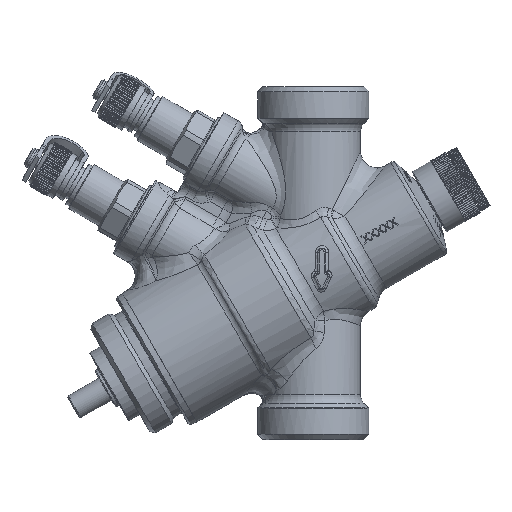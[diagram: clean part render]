
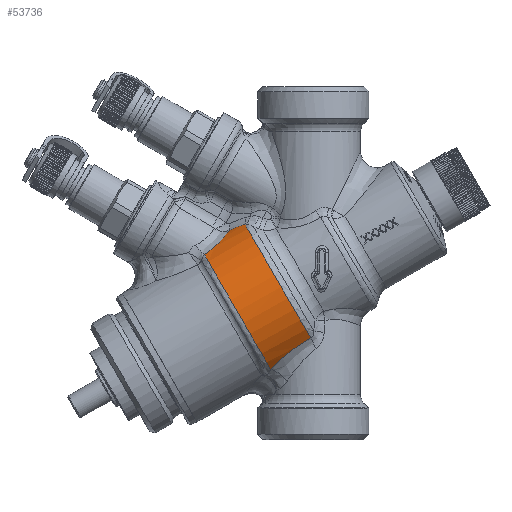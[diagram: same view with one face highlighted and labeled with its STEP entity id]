
A CAD part, left-side view. The second image highlights one B-rep face of the part: STEP entity #53736.
In plain terms, the highlighted cylindrical face has radius 18.65 mm (diameter 37.3 mm), a partial arc.
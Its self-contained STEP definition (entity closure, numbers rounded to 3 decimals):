
#586=ELLIPSE('',#57690,74.686,18.65);
#1870=CIRCLE('',#57725,18.65);
#1871=CIRCLE('',#57726,18.65);
#6139=FACE_OUTER_BOUND('',#9242,.T.);
#9242=EDGE_LOOP('',(#37356,#37357,#37358,#37359,#37360));
#12546=B_SPLINE_CURVE_WITH_KNOTS('',3,(#90203,#90204,#90205,#90206,#90207,
#90208,#90209,#90210,#90211,#90212,#90213,#90214,#90215,#90216,#90217,#90218,
#90219,#90220,#90221,#90222,#90223,#90224,#90225,#90226,#90227,#90228,#90229,
#90230,#90231,#90232,#90233,#90234,#90235,#90236,#90237,#90238,#90239,#90240,
#90241,#90242,#90243,#90244,#90245,#90246,#90247,#90248,#90249,#90250,#90251,
#90252,#90253,#90254,#90255,#90256,#90257),.UNSPECIFIED.,.F.,.F.,(4,3,3,
3,3,3,3,3,3,3,3,3,3,3,3,3,3,3,4),(0.001,0.002,
0.003,0.003,0.004,0.004,
0.004,0.005,0.006,0.006,
0.007,0.007,0.007,0.008,
0.008,0.009,0.01,0.011,
0.011),.UNSPECIFIED.);
#12548=B_SPLINE_CURVE_WITH_KNOTS('',3,(#90279,#90280,#90281,#90282,#90283,
#90284,#90285,#90286,#90287,#90288),.UNSPECIFIED.,.F.,.F.,(4,2,2,2,4),(0.,
0.003,0.006,0.009,0.012),
 .UNSPECIFIED.);
#22142=VERTEX_POINT('',#89167);
#22144=VERTEX_POINT('',#89253);
#22185=VERTEX_POINT('',#90202);
#22187=VERTEX_POINT('',#90275);
#22188=VERTEX_POINT('',#90277);
#28007=EDGE_CURVE('',#22144,#22142,#586,.T.);
#28065=EDGE_CURVE('',#22142,#22185,#12546,.T.);
#28068=EDGE_CURVE('',#22187,#22144,#1870,.T.);
#28069=EDGE_CURVE('',#22188,#22185,#1871,.T.);
#28070=EDGE_CURVE('',#22188,#22187,#12548,.T.);
#37356=ORIENTED_EDGE('',*,*,#28068,.T.);
#37357=ORIENTED_EDGE('',*,*,#28007,.T.);
#37358=ORIENTED_EDGE('',*,*,#28065,.T.);
#37359=ORIENTED_EDGE('',*,*,#28069,.F.);
#37360=ORIENTED_EDGE('',*,*,#28070,.T.);
#51690=CYLINDRICAL_SURFACE('',#57724,18.65);
#53736=ADVANCED_FACE('',(#6139),#51690,.T.);
#57690=AXIS2_PLACEMENT_3D('',#89257,#63009,#63010);
#57724=AXIS2_PLACEMENT_3D('',#90274,#63083,#63084);
#57725=AXIS2_PLACEMENT_3D('',#90276,#63085,#63086);
#57726=AXIS2_PLACEMENT_3D('',#90278,#63087,#63088);
#63009=DIRECTION('center_axis',(-0.828,0.467,0.31));
#63010=DIRECTION('ref_axis',(0.214,0.774,-0.596));
#63083=DIRECTION('center_axis',(0.,0.866,
-0.5));
#63084=DIRECTION('ref_axis',(0.,0.5,0.866));
#63085=DIRECTION('center_axis',(0.,0.866,
-0.5));
#63086=DIRECTION('ref_axis',(0.,0.5,0.866));
#63087=DIRECTION('center_axis',(0.,0.866,
-0.5));
#63088=DIRECTION('ref_axis',(0.,0.5,0.866));
#89167=CARTESIAN_POINT('',(-5.369,19.971,9.094));
#89253=CARTESIAN_POINT('',(-6.906,16.221,10.639));
#89257=CARTESIAN_POINT('Origin',(0.,57.557,-33.23));
#90202=CARTESIAN_POINT('',(-9.913,25.795,3.348));
#90203=CARTESIAN_POINT('Ctrl Pts',(-5.369,19.971,9.094));
#90204=CARTESIAN_POINT('Ctrl Pts',(-5.574,20.059,8.971));
#90205=CARTESIAN_POINT('Ctrl Pts',(-5.772,20.153,8.844));
#90206=CARTESIAN_POINT('Ctrl Pts',(-5.964,20.252,8.712));
#90207=CARTESIAN_POINT('Ctrl Pts',(-6.163,20.355,8.575));
#90208=CARTESIAN_POINT('Ctrl Pts',(-6.354,20.463,8.434));
#90209=CARTESIAN_POINT('Ctrl Pts',(-6.54,20.578,8.287));
#90210=CARTESIAN_POINT('Ctrl Pts',(-6.633,20.636,8.214));
#90211=CARTESIAN_POINT('Ctrl Pts',(-6.724,20.695,8.139));
#90212=CARTESIAN_POINT('Ctrl Pts',(-6.814,20.756,8.063));
#90213=CARTESIAN_POINT('Ctrl Pts',(-6.919,20.827,7.975));
#90214=CARTESIAN_POINT('Ctrl Pts',(-7.022,20.9,7.884));
#90215=CARTESIAN_POINT('Ctrl Pts',(-7.122,20.976,7.793));
#90216=CARTESIAN_POINT('Ctrl Pts',(-7.232,21.059,7.692));
#90217=CARTESIAN_POINT('Ctrl Pts',(-7.34,21.145,7.59));
#90218=CARTESIAN_POINT('Ctrl Pts',(-7.444,21.233,7.487));
#90219=CARTESIAN_POINT('Ctrl Pts',(-7.494,21.276,7.437));
#90220=CARTESIAN_POINT('Ctrl Pts',(-7.544,21.319,7.386));
#90221=CARTESIAN_POINT('Ctrl Pts',(-7.593,21.362,7.336));
#90222=CARTESIAN_POINT('Ctrl Pts',(-7.733,21.488,7.191));
#90223=CARTESIAN_POINT('Ctrl Pts',(-7.867,21.618,7.045));
#90224=CARTESIAN_POINT('Ctrl Pts',(-7.995,21.753,6.897));
#90225=CARTESIAN_POINT('Ctrl Pts',(-8.09,21.853,6.787));
#90226=CARTESIAN_POINT('Ctrl Pts',(-8.182,21.956,6.676));
#90227=CARTESIAN_POINT('Ctrl Pts',(-8.271,22.062,6.564));
#90228=CARTESIAN_POINT('Ctrl Pts',(-8.338,22.142,6.479));
#90229=CARTESIAN_POINT('Ctrl Pts',(-8.404,22.224,6.394));
#90230=CARTESIAN_POINT('Ctrl Pts',(-8.467,22.308,6.309));
#90231=CARTESIAN_POINT('Ctrl Pts',(-8.56,22.43,6.183));
#90232=CARTESIAN_POINT('Ctrl Pts',(-8.649,22.555,6.058));
#90233=CARTESIAN_POINT('Ctrl Pts',(-8.734,22.683,5.932));
#90234=CARTESIAN_POINT('Ctrl Pts',(-8.773,22.742,5.874));
#90235=CARTESIAN_POINT('Ctrl Pts',(-8.811,22.801,5.816));
#90236=CARTESIAN_POINT('Ctrl Pts',(-8.848,22.862,5.758));
#90237=CARTESIAN_POINT('Ctrl Pts',(-8.894,22.936,5.687));
#90238=CARTESIAN_POINT('Ctrl Pts',(-8.938,23.012,5.615));
#90239=CARTESIAN_POINT('Ctrl Pts',(-8.982,23.088,5.543));
#90240=CARTESIAN_POINT('Ctrl Pts',(-9.043,23.197,5.441));
#90241=CARTESIAN_POINT('Ctrl Pts',(-9.102,23.308,5.34));
#90242=CARTESIAN_POINT('Ctrl Pts',(-9.158,23.42,5.239));
#90243=CARTESIAN_POINT('Ctrl Pts',(-9.214,23.532,5.138));
#90244=CARTESIAN_POINT('Ctrl Pts',(-9.267,23.645,5.037));
#90245=CARTESIAN_POINT('Ctrl Pts',(-9.317,23.76,4.938));
#90246=CARTESIAN_POINT('Ctrl Pts',(-9.342,23.818,4.887));
#90247=CARTESIAN_POINT('Ctrl Pts',(-9.367,23.877,4.837));
#90248=CARTESIAN_POINT('Ctrl Pts',(-9.391,23.936,4.787));
#90249=CARTESIAN_POINT('Ctrl Pts',(-9.49,24.178,4.58));
#90250=CARTESIAN_POINT('Ctrl Pts',(-9.577,24.427,4.377));
#90251=CARTESIAN_POINT('Ctrl Pts',(-9.653,24.681,4.176));
#90252=CARTESIAN_POINT('Ctrl Pts',(-9.731,24.941,3.972));
#90253=CARTESIAN_POINT('Ctrl Pts',(-9.797,25.207,3.771));
#90254=CARTESIAN_POINT('Ctrl Pts',(-9.853,25.479,3.574));
#90255=CARTESIAN_POINT('Ctrl Pts',(-9.875,25.583,3.498));
#90256=CARTESIAN_POINT('Ctrl Pts',(-9.895,25.689,3.423));
#90257=CARTESIAN_POINT('Ctrl Pts',(-9.913,25.795,3.348));
#90274=CARTESIAN_POINT('Origin',(0.,-1.386,
0.8));
#90275=CARTESIAN_POINT('',(-12.453,0.617,-16.387));
#90276=CARTESIAN_POINT('Origin',(0.,7.559,
-4.364));
#90277=CARTESIAN_POINT('',(-10.341,10.136,-23.773));
#90278=CARTESIAN_POINT('Origin',(0.,17.896,
-10.332));
#90279=CARTESIAN_POINT('Ctrl Pts',(-10.341,10.136,-23.773));
#90280=CARTESIAN_POINT('Ctrl Pts',(-10.708,9.449,-23.094));
#90281=CARTESIAN_POINT('Ctrl Pts',(-11.026,8.74,-22.419));
#90282=CARTESIAN_POINT('Ctrl Pts',(-11.573,7.275,-21.092));
#90283=CARTESIAN_POINT('Ctrl Pts',(-11.803,6.517,-20.439));
#90284=CARTESIAN_POINT('Ctrl Pts',(-12.17,4.937,-19.172));
#90285=CARTESIAN_POINT('Ctrl Pts',(-12.307,4.112,-18.555));
#90286=CARTESIAN_POINT('Ctrl Pts',(-12.47,2.412,-17.406));
#90287=CARTESIAN_POINT('Ctrl Pts',(-12.497,1.534,-16.871));
#90288=CARTESIAN_POINT('Ctrl Pts',(-12.453,0.617,-16.387));
